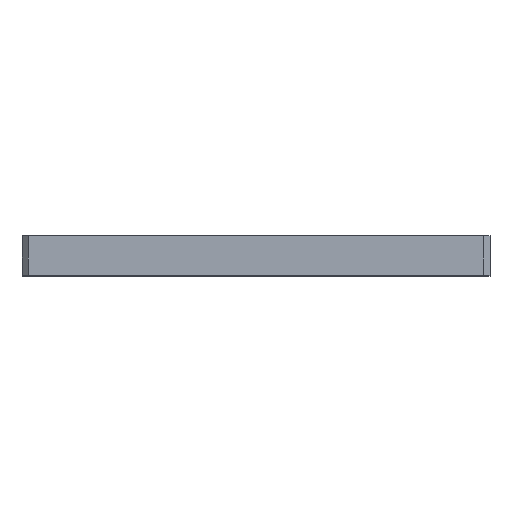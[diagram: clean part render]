
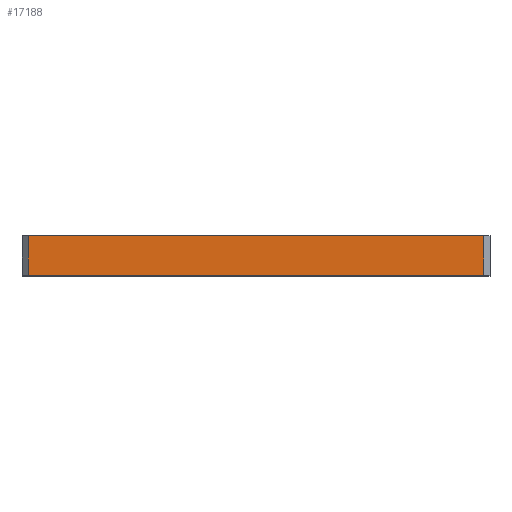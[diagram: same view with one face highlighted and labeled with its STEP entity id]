
A CAD part, top view. The second image highlights one B-rep face of the part: STEP entity #17188.
In plain terms, the highlighted planar face has unit normal (0, 0, 1).
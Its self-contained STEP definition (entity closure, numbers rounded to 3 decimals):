
#1382=PLANE('',#19941);
#2752=FACE_OUTER_BOUND('',#4662,.T.);
#4662=EDGE_LOOP('',(#14985,#14986,#14987,#14988));
#5496=LINE('',#30896,#6200);
#5504=LINE('',#30911,#6208);
#5506=LINE('',#30915,#6210);
#5507=LINE('',#30917,#6211);
#6200=VECTOR('',#26083,10.);
#6208=VECTOR('',#26097,10.);
#6210=VECTOR('',#26101,10.);
#6211=VECTOR('',#26104,10.);
#8942=VERTEX_POINT('',#30893);
#8943=VERTEX_POINT('',#30895);
#8947=VERTEX_POINT('',#30909);
#8948=VERTEX_POINT('',#30913);
#11000=EDGE_CURVE('',#8943,#8942,#5496,.T.);
#11008=EDGE_CURVE('',#8947,#8942,#5504,.T.);
#11010=EDGE_CURVE('',#8943,#8948,#5506,.T.);
#11011=EDGE_CURVE('',#8948,#8947,#5507,.T.);
#14985=ORIENTED_EDGE('',*,*,#11008,.F.);
#14986=ORIENTED_EDGE('',*,*,#11011,.F.);
#14987=ORIENTED_EDGE('',*,*,#11010,.F.);
#14988=ORIENTED_EDGE('',*,*,#11000,.T.);
#17188=ADVANCED_FACE('',(#2752),#1382,.T.);
#19941=AXIS2_PLACEMENT_3D('',#30916,#26102,#26103);
#26083=DIRECTION('',(1.,0.,0.));
#26097=DIRECTION('',(0.,-1.,0.));
#26101=DIRECTION('',(0.,1.,0.));
#26102=DIRECTION('center_axis',(0.,0.,1.));
#26103=DIRECTION('ref_axis',(1.,0.,0.));
#26104=DIRECTION('',(1.,0.,0.));
#30893=CARTESIAN_POINT('',(203.032,0.,201.658));
#30895=CARTESIAN_POINT('',(-86.468,0.,201.658));
#30896=CARTESIAN_POINT('',(-90.468,0.,201.658));
#30909=CARTESIAN_POINT('',(203.032,25.,201.658));
#30911=CARTESIAN_POINT('',(203.032,0.,201.658));
#30913=CARTESIAN_POINT('',(-86.468,25.,201.658));
#30915=CARTESIAN_POINT('',(-86.468,0.,201.658));
#30916=CARTESIAN_POINT('Origin',(-90.468,0.,201.658));
#30917=CARTESIAN_POINT('',(-90.468,25.,201.658));
